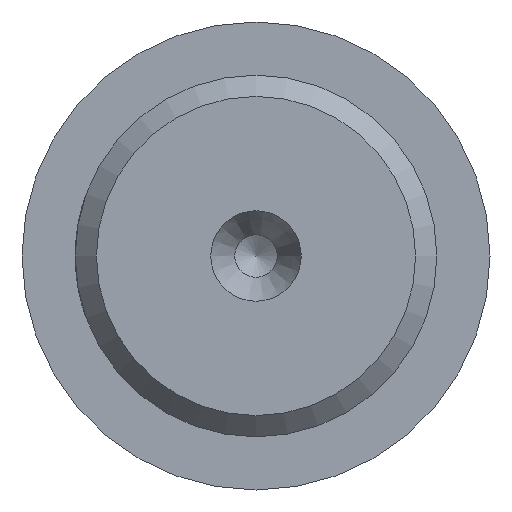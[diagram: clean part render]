
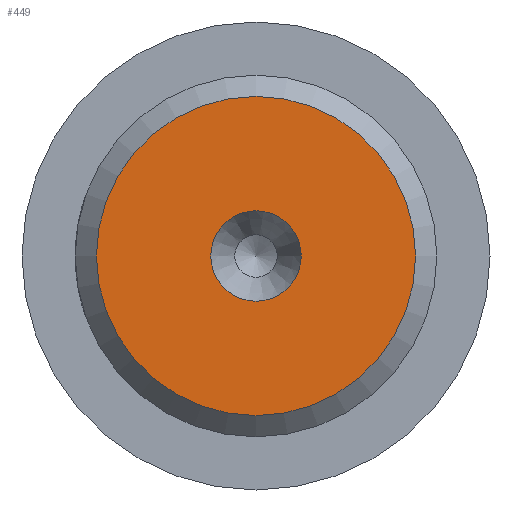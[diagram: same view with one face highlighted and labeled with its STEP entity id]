
A CAD part, left-side view. The second image highlights one B-rep face of the part: STEP entity #449.
In plain terms, the highlighted planar face has unit normal (-1, 0, 0).
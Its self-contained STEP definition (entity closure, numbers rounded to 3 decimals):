
#28=FACE_BOUND('',#118,.T.);
#35=CIRCLE('',#490,7.5);
#51=CIRCLE('',#521,2.125);
#86=FACE_OUTER_BOUND('',#117,.T.);
#117=EDGE_LOOP('',(#411));
#118=EDGE_LOOP('',(#412));
#212=VERTEX_POINT('',#808);
#226=VERTEX_POINT('',#862);
#263=EDGE_CURVE('',#212,#212,#35,.T.);
#288=EDGE_CURVE('',#226,#226,#51,.T.);
#411=ORIENTED_EDGE('',*,*,#263,.F.);
#412=ORIENTED_EDGE('',*,*,#288,.T.);
#422=PLANE('',#522);
#449=ADVANCED_FACE('',(#86,#28),#422,.T.);
#490=AXIS2_PLACEMENT_3D('',#810,#577,#578);
#521=AXIS2_PLACEMENT_3D('',#864,#648,#649);
#522=AXIS2_PLACEMENT_3D('',#865,#650,#651);
#577=DIRECTION('center_axis',(1.,0.,0.));
#578=DIRECTION('ref_axis',(0.,0.,-1.));
#648=DIRECTION('center_axis',(1.,0.,0.));
#649=DIRECTION('ref_axis',(0.,0.,-1.));
#650=DIRECTION('center_axis',(-1.,0.,0.));
#651=DIRECTION('ref_axis',(0.,0.,1.));
#808=CARTESIAN_POINT('',(0.,-7.5,0.));
#810=CARTESIAN_POINT('Origin',(0.,0.,0.));
#862=CARTESIAN_POINT('',(0.,-2.125,0.));
#864=CARTESIAN_POINT('Origin',(0.,0.,0.));
#865=CARTESIAN_POINT('Origin',(0.,7.5,0.));
